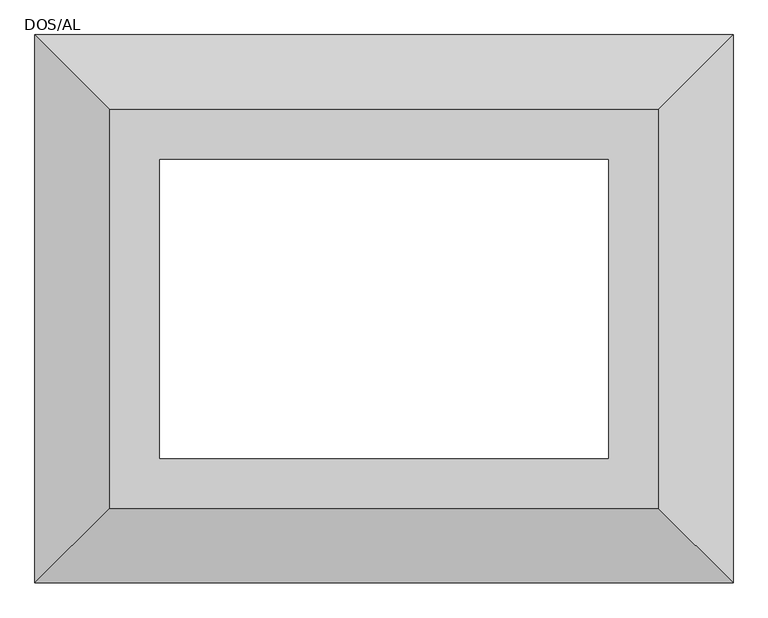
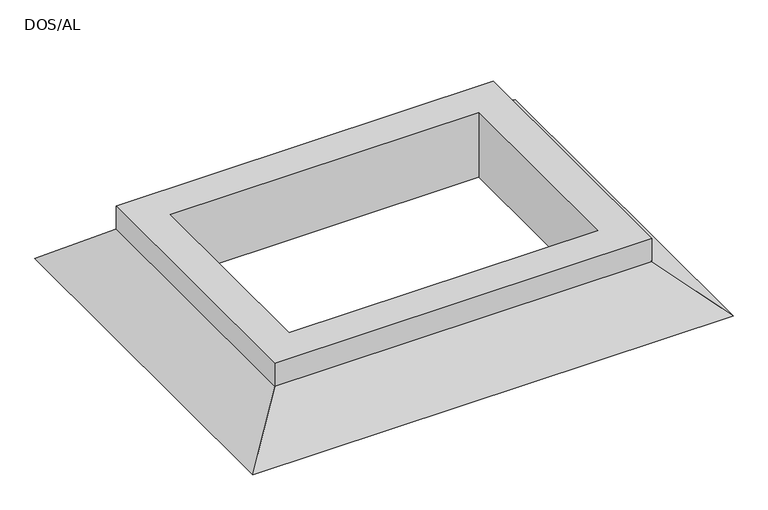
"""IFC4 building model written with IfcOpenShell, lengths in millimetres: duct fitting geometry, DUF_FB_Roof mounting DOS-AL_SH_SMA : DOS/AL."""

from ifc_helpers import new_model, si_unit, origin, place, context, project, spatial, faceted_brep, source, transform, mapped, element, save


def dos_al_2780d545(model_context):
    return source(origin(), model_context, "Body", "Brep", [
        faceted_brep([(450.0, 300.0, 200.0), (450.0, 300.0, 0.0), (450.0, -300.0, 0.0), (450.0, -300.0, 200.0), (550.0, 400.0, 130.0), (550.0, 400.0, 200.0), (550.0, -400.0, 200.0), (550.0, -400.0, 130.0), (700.0, 550.0, 0.0), (700.0, -550.0, 0.0), (-450.0, -300.0, 0.0), (-450.0, -300.0, 200.0), (-550.0, -400.0, 200.0), (-550.0, -400.0, 130.0), (-700.0, -550.0, 0.0), (-450.0, 300.0, 0.0), (-450.0, 300.0, 200.0), (-550.0, 400.0, 200.0), (-550.0, 400.0, 130.0), (-700.0, 550.0, 0.0)], [[[0, 1, 2, 3]], [[4, 5, 6, 7]], [[8, 4, 7, 9]], [[3, 2, 10, 11]], [[7, 6, 12, 13]], [[9, 7, 13, 14]], [[11, 10, 15, 16]], [[13, 12, 17, 18]], [[14, 13, 18, 19]], [[9, 14, 19, 8], [1, 15, 10, 2]], [[16, 15, 1, 0]], [[5, 17, 12, 6], [3, 11, 16, 0]], [[18, 17, 5, 4]], [[19, 18, 4, 8]]]),
    ])


if __name__ == "__main__":
    model = new_model("IFC4")
    model_context = context("Model", 3, world=origin())
    ifc_project = project(units=[si_unit("LENGTHUNIT", "METRE", prefix="MILLI")], contexts=[model_context])
    site = spatial("IfcSite", under=ifc_project)
    building = spatial("IfcBuilding", under=site)
    placement = place(None, origin())
    dos_al_shape = dos_al_2780d545(model_context)
    element("IfcDuctFitting", 1, ObjectType="DUF_FB_Roof mounting DOS-AL_SH_SMA : DOS/AL", at=placement, inside=building, context=model_context, shape_type="MappedRepresentation", body=[
        mapped(dos_al_shape, transform((0.0, 0.0, 0.0), x_axis=(1.0, 0.0, 0.0), y_axis=(0.0, 1.0, 0.0), z_axis=(0.0, 0.0, 1.0))),
    ])
    save(model, "model.ifc")
